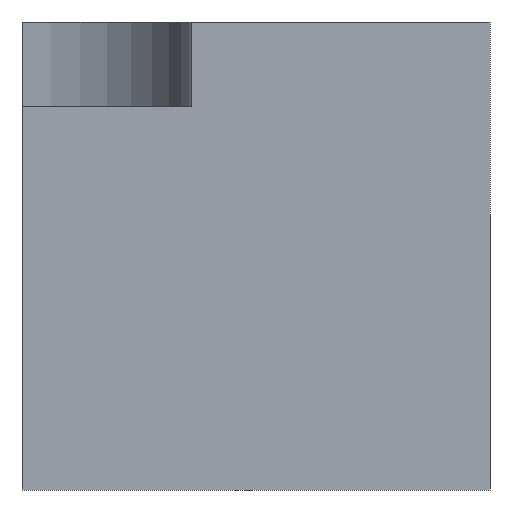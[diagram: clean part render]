
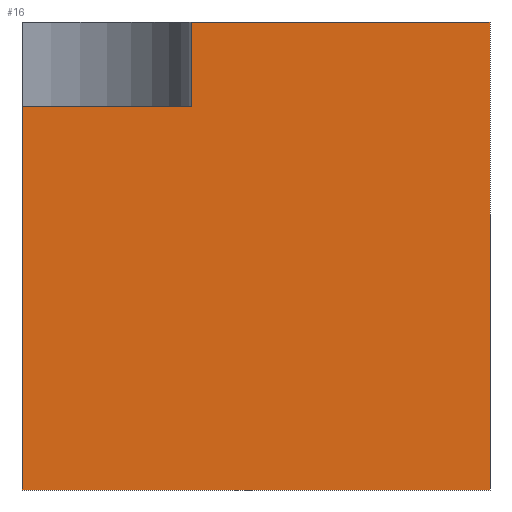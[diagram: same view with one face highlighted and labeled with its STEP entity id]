
A CAD part, front view. The second image highlights one B-rep face of the part: STEP entity #16.
In plain terms, the highlighted planar face has unit normal (0, -1, 0).
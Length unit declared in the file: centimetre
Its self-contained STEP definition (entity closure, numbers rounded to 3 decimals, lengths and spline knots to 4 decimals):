
#9 = CARTESIAN_POINT ( 'NONE',  ( 1000., 0., 1000. ) ) ;
#10 = CARTESIAN_POINT ( 'NONE',  ( 0., 0., 0. ) ) ;
#16 = ADVANCED_FACE ( 'NONE', ( #392 ), #468, .F. ) ;
#44 = EDGE_CURVE ( 'NONE', #445, #373, #689, .T. ) ;
#45 = LINE ( 'NONE', #736, #395 ) ;
#103 = CARTESIAN_POINT ( 'NONE',  ( 0., 0., 819.0593 ) ) ;
#134 = EDGE_LOOP ( 'NONE', ( #268, #367, #325, #214, #396, #376 ) ) ;
#141 = EDGE_CURVE ( 'NONE', #595, #373, #45, .T. ) ;
#148 = VECTOR ( 'NONE', #694, 100. ) ;
#169 = DIRECTION ( 'NONE',  ( 1., 0., 0. ) ) ;
#179 = LINE ( 'NONE', #10, #148 ) ;
#196 = CARTESIAN_POINT ( 'NONE',  ( 362.2371, 0., 819.0593 ) ) ;
#213 = CARTESIAN_POINT ( 'NONE',  ( 1000., 0., 1000. ) ) ;
#214 = ORIENTED_EDGE ( 'NONE', *, *, #490, .T. ) ;
#227 = DIRECTION ( 'NONE',  ( 0., 0., -1. ) ) ;
#228 = EDGE_CURVE ( 'NONE', #465, #497, #179, .T. ) ;
#229 = DIRECTION ( 'NONE',  ( 0., 0., 1. ) ) ;
#245 = VECTOR ( 'NONE', #227, 100. ) ;
#263 = AXIS2_PLACEMENT_3D ( 'NONE', #619, #348, #229 ) ;
#268 = ORIENTED_EDGE ( 'NONE', *, *, #460, .F. ) ;
#270 = CARTESIAN_POINT ( 'NONE',  ( 0., 0., 1000. ) ) ;
#325 = ORIENTED_EDGE ( 'NONE', *, *, #44, .F. ) ;
#342 = CARTESIAN_POINT ( 'NONE',  ( 0., 0., 1000. ) ) ;
#345 = EDGE_CURVE ( 'NONE', #452, #497, #639, .T. ) ;
#346 = CARTESIAN_POINT ( 'NONE',  ( 0., 0., 819.0593 ) ) ;
#348 = DIRECTION ( 'NONE',  ( 0., 1., 0. ) ) ;
#351 = CARTESIAN_POINT ( 'NONE',  ( 362.2371, 0., 1000. ) ) ;
#367 = ORIENTED_EDGE ( 'NONE', *, *, #141, .T. ) ;
#373 = VERTEX_POINT ( 'NONE', #196 ) ;
#376 = ORIENTED_EDGE ( 'NONE', *, *, #345, .F. ) ;
#392 = FACE_OUTER_BOUND ( 'NONE', #134, .T. ) ;
#395 = VECTOR ( 'NONE', #624, 100. ) ;
#396 = ORIENTED_EDGE ( 'NONE', *, *, #228, .T. ) ;
#399 = LINE ( 'NONE', #342, #581 ) ;
#445 = VERTEX_POINT ( 'NONE', #103 ) ;
#452 = VERTEX_POINT ( 'NONE', #213 ) ;
#454 = VECTOR ( 'NONE', #479, 100. ) ;
#460 = EDGE_CURVE ( 'NONE', #595, #452, #399, .T. ) ;
#465 = VERTEX_POINT ( 'NONE', #564 ) ;
#468 = PLANE ( 'NONE',  #263 ) ;
#479 = DIRECTION ( 'NONE',  ( 0., 0., -1. ) ) ;
#490 = EDGE_CURVE ( 'NONE', #445, #465, #739, .T. ) ;
#497 = VERTEX_POINT ( 'NONE', #679 ) ;
#520 = DIRECTION ( 'NONE',  ( 1., 0., 0. ) ) ;
#564 = CARTESIAN_POINT ( 'NONE',  ( 0., 0., 0. ) ) ;
#581 = VECTOR ( 'NONE', #520, 100. ) ;
#595 = VERTEX_POINT ( 'NONE', #351 ) ;
#619 = CARTESIAN_POINT ( 'NONE',  ( 0., 0., 1000. ) ) ;
#624 = DIRECTION ( 'NONE',  ( 0., 0., -1. ) ) ;
#639 = LINE ( 'NONE', #9, #454 ) ;
#679 = CARTESIAN_POINT ( 'NONE',  ( 1000., 0., 0. ) ) ;
#689 = LINE ( 'NONE', #346, #737 ) ;
#694 = DIRECTION ( 'NONE',  ( 1., 0., 0. ) ) ;
#736 = CARTESIAN_POINT ( 'NONE',  ( 362.2371, 0., 819.0593 ) ) ;
#737 = VECTOR ( 'NONE', #169, 100. ) ;
#739 = LINE ( 'NONE', #270, #245 ) ;
